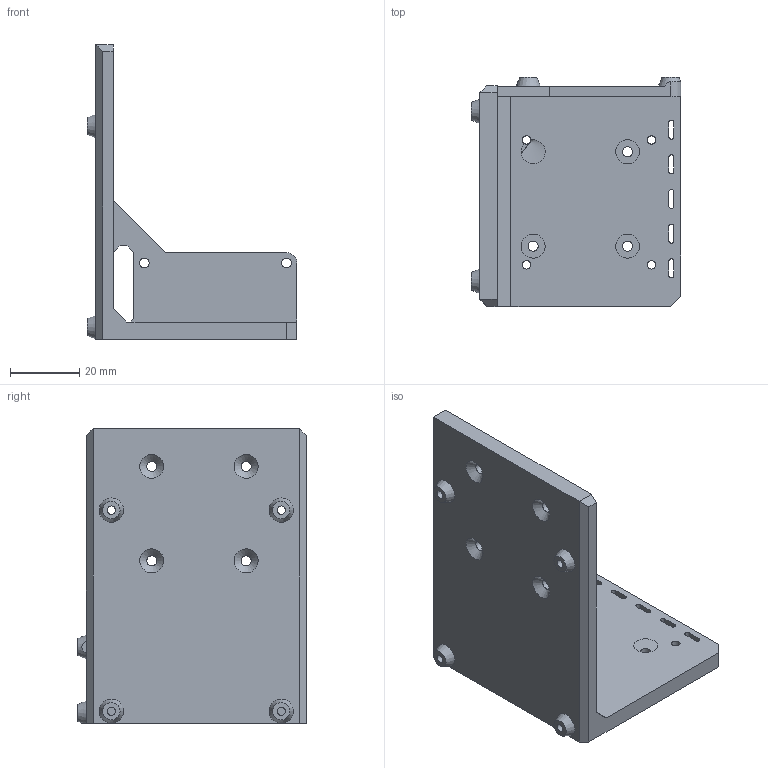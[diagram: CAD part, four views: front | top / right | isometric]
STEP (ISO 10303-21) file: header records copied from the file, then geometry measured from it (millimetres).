
FILE_DESCRIPTION(/* description */ (''),/* implementation_level */ '2;1');
FILE_NAME(/* name */ '',/* time_stamp */ '2026-01-25T17:07:27+08:00',/* author */ (''),/* organization */ (''),/* preprocessor_version */ 'ST-DEVELOPER v20.1',/* originating_system */ 'Autodesk Translation Framework v14.24.0.0',/* authorisation */ '');
FILE_SCHEMA (('AUTOMOTIVE_DESIGN { 1 0 10303 214 3 1 1 }'));
Length unit declared in the file: millimetre
Products named in the file (1): Fusion 零部件
Bounding box: 60.5 x 66 x 85 mm (x, y, z)
Volume: 46608.7 mm3; surface area: 22589.6 mm2
Topology: 1 solids, 1 shells, 92 faces, 247 edges, 161 vertices
Faces by surface type: plane 45, cylinder 31, cone 16
Full cylindrical faces by diameter (mm): 2.4 x8, 2.8 x4, 2.9 x8
Entity records: 3030 total; most frequent: CARTESIAN_POINT 536, DIRECTION 516, ORIENTED_EDGE 494, EDGE_CURVE 247, AXIS2_PLACEMENT_3D 186, VERTEX_POINT 161, LINE 144, VECTOR 144
